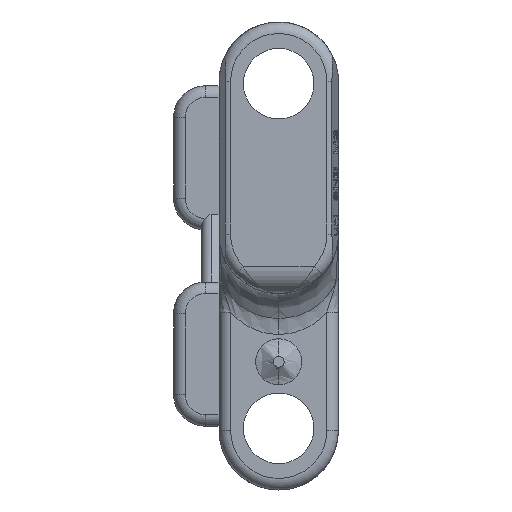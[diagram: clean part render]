
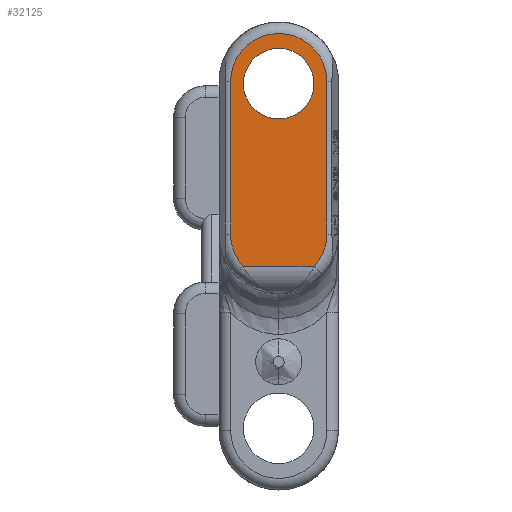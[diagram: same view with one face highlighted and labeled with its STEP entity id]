
A CAD part, left-side view. The second image highlights one B-rep face of the part: STEP entity #32125.
In plain terms, the highlighted planar face has unit normal (-1, 0, 0).
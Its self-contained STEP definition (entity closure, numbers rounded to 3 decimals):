
#15=CARTESIAN_POINT('',(-95.25,0.,1.62));
#16=DIRECTION('',(1.,0.,0.));
#17=DIRECTION('',(0.,-1.,0.));
#18=AXIS2_PLACEMENT_3D('',#15,#16,#17);
#20=CARTESIAN_POINT('',(-95.25,0.,1.62));
#21=DIRECTION('',(1.,0.,0.));
#22=DIRECTION('',(0.,0.737,-0.676));
#23=AXIS2_PLACEMENT_3D('',#20,#21,#22);
#25=CARTESIAN_POINT('',(-95.25,0.,12.85));
#26=DIRECTION('',(1.,0.,0.));
#27=DIRECTION('',(0.,1.,0.));
#28=AXIS2_PLACEMENT_3D('',#25,#26,#27);
#30=CARTESIAN_POINT('',(-95.25,0.,12.85));
#31=DIRECTION('',(1.,0.,0.));
#32=DIRECTION('',(0.,-1.,0.018));
#33=AXIS2_PLACEMENT_3D('',#30,#31,#32);
#35=CARTESIAN_POINT('',(-95.25,0.,12.7));
#36=DIRECTION('',(-1.,0.,0.));
#37=DIRECTION('',(0.,0.,1.));
#38=AXIS2_PLACEMENT_3D('',#35,#36,#37);
#40=CARTESIAN_POINT('',(-95.25,0.,12.7));
#41=DIRECTION('',(-1.,0.,0.));
#42=DIRECTION('',(0.,0.,-1.));
#43=AXIS2_PLACEMENT_3D('',#40,#41,#42);
#669=DIRECTION('',(0.,0.,1.));
#670=VECTOR('',#669,11.23);
#671=CARTESIAN_POINT('',(-95.25,-3.55,1.62));
#672=LINE('',#671,#670);
#677=DIRECTION('',(0.,0.,-1.));
#678=VECTOR('',#677,11.23);
#679=CARTESIAN_POINT('',(-95.25,3.55,12.85));
#680=LINE('',#679,#678);
#790=DIRECTION('',(0.,-1.,0.));
#791=VECTOR('',#790,5.232);
#792=CARTESIAN_POINT('',(-95.25,2.616,
-0.78));
#793=LINE('',#792,#791);
#26628=CARTESIAN_POINT('',(-95.25,-3.55,1.62));
#26629=CARTESIAN_POINT('',(-95.25,-2.616,-0.78));
#26630=VERTEX_POINT('',#26628);
#26631=VERTEX_POINT('',#26629);
#26632=CARTESIAN_POINT('',(-95.25,2.616,
-0.78));
#26633=VERTEX_POINT('',#26632);
#26634=CARTESIAN_POINT('',(-95.25,3.55,1.62));
#26635=VERTEX_POINT('',#26634);
#26636=CARTESIAN_POINT('',(-95.25,3.55,12.85));
#26637=VERTEX_POINT('',#26636);
#26638=CARTESIAN_POINT('',(-95.25,-3.549,12.915));
#26639=VERTEX_POINT('',#26638);
#26640=CARTESIAN_POINT('',(-95.25,-3.55,12.85));
#26641=VERTEX_POINT('',#26640);
#26642=CARTESIAN_POINT('',(-95.25,0.,15.3));
#26643=CARTESIAN_POINT('',(-95.25,0.,10.1));
#26644=VERTEX_POINT('',#26642);
#26645=VERTEX_POINT('',#26643);
#32098=CARTESIAN_POINT('',(-95.25,0.,0.));
#32099=DIRECTION('',(1.,0.,0.));
#32100=DIRECTION('',(0.,0.,-1.));
#32101=AXIS2_PLACEMENT_3D('',#32098,#32099,#32100);
#32102=PLANE('',#32101);
#32104=ORIENTED_EDGE('',*,*,#32103,.T.);
#32106=ORIENTED_EDGE('',*,*,#32105,.F.);
#32108=ORIENTED_EDGE('',*,*,#32107,.T.);
#32110=ORIENTED_EDGE('',*,*,#32109,.F.);
#32112=ORIENTED_EDGE('',*,*,#32111,.T.);
#32114=ORIENTED_EDGE('',*,*,#32113,.T.);
#32116=ORIENTED_EDGE('',*,*,#32115,.F.);
#32117=EDGE_LOOP('',(#32104,#32106,#32108,#32110,#32112,#32114,#32116));
#32118=FACE_OUTER_BOUND('',#32117,.F.);
#32120=ORIENTED_EDGE('',*,*,#32119,.T.);
#32122=ORIENTED_EDGE('',*,*,#32121,.T.);
#32123=EDGE_LOOP('',(#32120,#32122));
#32124=FACE_BOUND('',#32123,.F.);
#32125=ADVANCED_FACE('',(#32118,#32124),#32102,.F.);
#19=CIRCLE('',#18,3.55);
#24=CIRCLE('',#23,3.55);
#29=CIRCLE('',#28,3.55);
#34=CIRCLE('',#33,3.55);
#39=CIRCLE('',#38,2.6);
#44=CIRCLE('',#43,2.6);
#32103=EDGE_CURVE('',#26630,#26631,#19,.T.);
#32105=EDGE_CURVE('',#26633,#26631,#793,.T.);
#32107=EDGE_CURVE('',#26633,#26635,#24,.T.);
#32109=EDGE_CURVE('',#26637,#26635,#680,.T.);
#32111=EDGE_CURVE('',#26637,#26639,#29,.T.);
#32113=EDGE_CURVE('',#26639,#26641,#34,.T.);
#32115=EDGE_CURVE('',#26630,#26641,#672,.T.);
#32119=EDGE_CURVE('',#26644,#26645,#39,.T.);
#32121=EDGE_CURVE('',#26645,#26644,#44,.T.);
